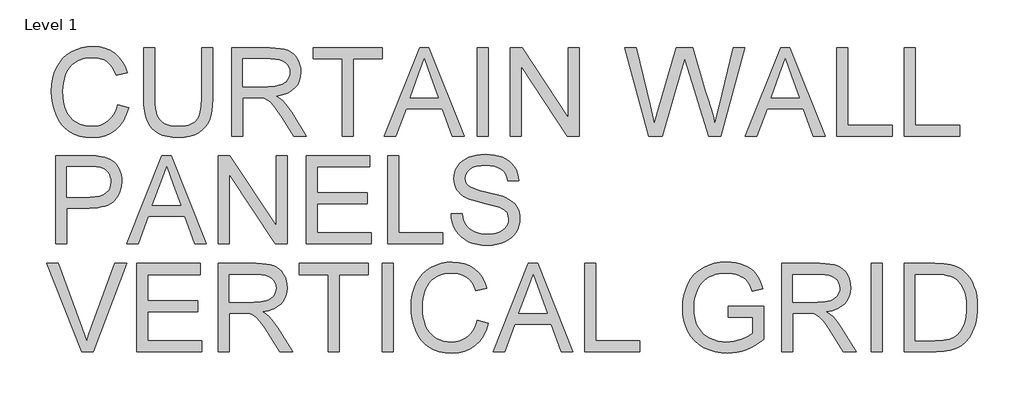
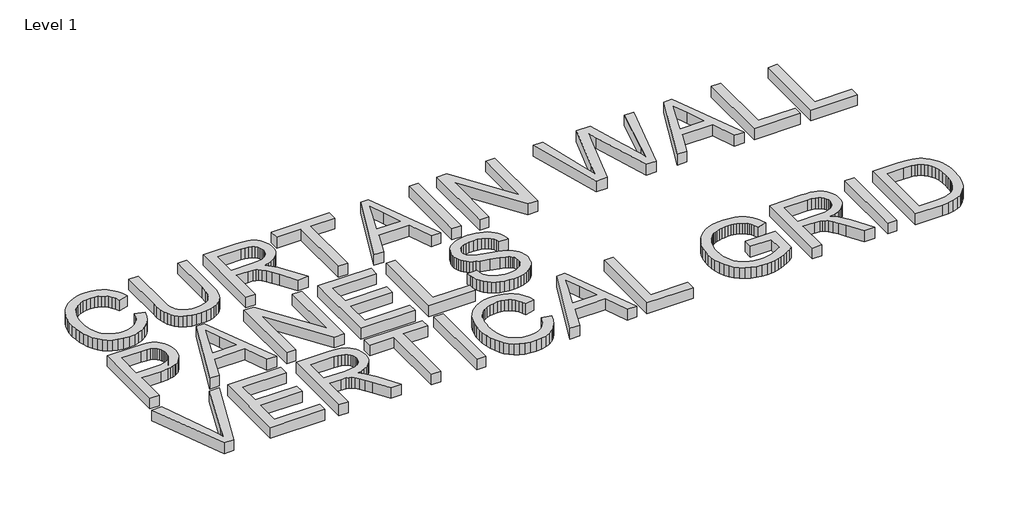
# One storey, part 12 of 27: 1 proxy.
"""IFC4 building model written with IfcOpenShell, lengths in millimetres."""

import ifcopenshell
import ifcopenshell.guid

model = None  # the IFC model being written
_history = None  # IfcOwnerHistory: only IFC2X3 demands one
_inside = {}  # id of a spatial element -> (the spatial element, [elements in it])
_under = {}  # id of a project, library or spatial element -> (it, [spatial elements below it])
_declared = {}  # id of a project -> (the project, [libraries it declares])
_typed = {}  # id of a type object -> (the type object, [elements of that type])
_made_of = {}  # id of a material, layer set ... -> (it, [elements and type objects made of it])


def new_model(schema):
    """Start an empty IFC model of exactly this schema.

    Asked for "IFC4X3", IfcOpenShell would pick the latest addendum, in which some entities
    have other attributes; the version numbers below select the first issue.
    IFC2X3 requires an IfcOwnerHistory on every rooted entity: one is made here for all.
    """
    global model, _history
    if schema == "IFC4X3":
        model = ifcopenshell.file(schema_version=(4, 3, 0, 0))
    else:
        model = ifcopenshell.file(schema=schema)
    _inside.clear()
    _under.clear()
    _declared.clear()
    _typed.clear()
    _made_of.clear()
    _history = None
    if model.schema == "IFC2X3":
        org = make("IfcOrganization", Name="unknown")
        user = make(
            "IfcPersonAndOrganization",
            ThePerson=make("IfcPerson", FamilyName="unknown"),
            TheOrganization=org,
        )
        app = make(
            "IfcApplication",
            ApplicationDeveloper=org,
            Version="unknown",
            ApplicationFullName="unknown",
            ApplicationIdentifier="unknown",
        )
        _history = make(
            "IfcOwnerHistory",
            OwningUser=user,
            OwningApplication=app,
            ChangeAction="ADDED",
            CreationDate=0,
        )
    return model


def make(cls, **values):
    """One entity of the class cls with the attributes given. An attribute that is None is left unset."""
    return model.create_entity(
        cls, **{name: value for name, value in values.items() if value is not None}
    )


def rooted(cls, **values):
    """An entity with a GlobalId (a new one), such as an element, a storey or a relation."""
    return make(cls, GlobalId=ifcopenshell.guid.new(), OwnerHistory=_history, **values)


def si_unit(unit_type, name, prefix=None):
    """IfcSIUnit, for example si_unit("LENGTHUNIT", "METRE", prefix="MILLI")."""
    return make("IfcSIUnit", UnitType=unit_type, Prefix=prefix, Name=name)


def assignment(units):
    """IfcUnitAssignment: the units of a project."""
    return None if units is None else make("IfcUnitAssignment", Units=units)


def point(xyz):
    """IfcCartesianPoint."""
    return None if xyz is None else make("IfcCartesianPoint", Coordinates=xyz)


def direction(xyz):
    """IfcDirection."""
    return None if xyz is None else make("IfcDirection", DirectionRatios=xyz)


def frame(location, z_axis=None, x_axis=None):
    """IfcAxis2Placement3D, a coordinate frame: its origin and axes. An axis left out is left unset."""
    return make(
        "IfcAxis2Placement3D",
        Location=point(location),
        Axis=direction(z_axis),
        RefDirection=direction(x_axis),
    )


def origin():
    """The frame at (0, 0, 0) with its axes left unset."""
    return frame((0.0, 0.0, 0.0))


def origin_with_axes():
    """The frame at (0, 0, 0) with the z axis (0, 0, 1) and the x axis (1, 0, 0) written out."""
    return frame((0.0, 0.0, 0.0), z_axis=(0.0, 0.0, 1.0), x_axis=(1.0, 0.0, 0.0))


def place(relative_to, where):
    """IfcLocalPlacement: puts the frame where relative to a parent placement (None: the world)."""
    return make(
        "IfcLocalPlacement", PlacementRelTo=relative_to, RelativePlacement=where
    )


def context(
    kind, dimensions, precision=None, world=None, true_north=None, identifier=None
):
    """IfcGeometricRepresentationContext, for example the 3D "Model" context."""
    return make(
        "IfcGeometricRepresentationContext",
        ContextIdentifier=identifier,
        ContextType=kind,
        CoordinateSpaceDimension=dimensions,
        Precision=precision,
        WorldCoordinateSystem=world,
        TrueNorth=true_north,
    )


def project(units=None, contexts=None):
    """IfcProject with its units and contexts."""
    return rooted(
        "IfcProject",
        Name="project",
        RepresentationContexts=contexts,
        UnitsInContext=assignment(units),
    )


def spatial(cls, under=None, at=None, **own):
    """A site, building, storey or space (cls), placed at a placement, below another one or the project."""
    s = rooted(cls, ObjectPlacement=at, **own)
    if under is not None:
        _under.setdefault(under.id(), (under, []))[1].append(s)
    return s


def polyline(points):
    """IfcPolyline through the points."""
    return make("IfcPolyline", Points=[point(p) for p in points])


def outline(outer, holes=None, kind="AREA"):
    """IfcArbitraryClosedProfileDef: a profile drawn as a closed curve; with holes, ...WithVoids."""
    if holes is None:
        return make("IfcArbitraryClosedProfileDef", ProfileType=kind, OuterCurve=outer)
    return make(
        "IfcArbitraryProfileDefWithVoids",
        ProfileType=kind,
        OuterCurve=outer,
        InnerCurves=holes,
    )


def extrude(swept, where, along, depth):
    """IfcExtrudedAreaSolid: the profile swept, set in the frame where, extruded along a direction by depth."""
    return make(
        "IfcExtrudedAreaSolid",
        SweptArea=swept,
        Position=where,
        ExtrudedDirection=direction(along),
        Depth=depth,
    )


def shape(context_of_items, identifier, shape_type, items):
    """IfcShapeRepresentation: the items that make up one representation, for example the "Body"."""
    return make(
        "IfcShapeRepresentation",
        ContextOfItems=context_of_items,
        RepresentationIdentifier=identifier,
        RepresentationType=shape_type,
        Items=items,
    )


def made_of(thing, what):
    """Note that an element or type object is made of a material, layer set ...; save() writes the relation."""
    if what is not None:
        _made_of.setdefault(what.id(), (what, []))[1].append(thing)
    return thing


def element(
    cls,
    number,
    at=None,
    inside=None,
    cuts=None,
    type_object=None,
    material=None,
    context=None,
    identifier="Body",
    shape_type=None,
    held_by="IfcProductDefinitionShape",
    body=None,
    shapes=None,
    **own,
):
    """One element of the class cls, such as IfcWall. Its Tag is "e" and its number.

    at: its placement. inside: the storey or other place that contains it. cuts: it is an
    opening in that element (IfcRelVoidsElement). A single representation is given by context,
    identifier, shape_type and body (its items); several are given by shapes. held_by: the class
    of the entity that holds the representations. save() writes the other relations.
    """
    e = rooted(cls, Tag="e%d" % number, ObjectPlacement=at, **own)
    if body is not None:
        shapes = [shape(context, identifier, shape_type, body)]
    if shapes is not None:
        e.Representation = make(held_by, Representations=shapes)
    if inside is not None:
        _inside.setdefault(inside.id(), (inside, []))[1].append(e)
    if cuts is not None:
        rooted(
            "IfcRelVoidsElement", RelatingBuildingElement=cuts, RelatedOpeningElement=e
        )
    if type_object is not None:
        _typed.setdefault(type_object.id(), (type_object, []))[1].append(e)
    return made_of(e, material)


def aggregate(whole, parts):
    """IfcRelAggregates: a whole, such as a stair, and the parts it consists of."""
    return rooted("IfcRelAggregates", RelatingObject=whole, RelatedObjects=parts)


def save(model, path):
    """Write the relations noted so far, then the file.

    IfcRelAggregates (storeys below a building ...), IfcRelContainedInSpatialStructure (elements
    in a storey), IfcRelDefinesByType, IfcRelAssociatesMaterial and IfcRelDeclares: one each for
    every whole, place, type object, material and project.
    """
    for whole, parts in _under.values():
        aggregate(whole, parts)
    for where, things in _inside.values():
        rooted(
            "IfcRelContainedInSpatialStructure",
            RelatedElements=things,
            RelatingStructure=where,
        )
    for kind, things in _typed.values():
        rooted("IfcRelDefinesByType", RelatedObjects=things, RelatingType=kind)
    for what, things in _made_of.values():
        rooted("IfcRelAssociatesMaterial", RelatedObjects=things, RelatingMaterial=what)
    for by, libraries in _declared.values():
        rooted("IfcRelDeclares", RelatingContext=by, RelatedDefinitions=libraries)
    model.write(path)


model = new_model("IFC4")

# Units and contexts
model_context = context("Model", 3, world=origin())
ifc_project = project(units=[si_unit("LENGTHUNIT", "METRE", prefix="MILLI")], contexts=[model_context])

# Site, building, storey
site = spatial("IfcSite", under=ifc_project)
building = spatial("IfcBuilding", under=site)
storey = spatial("IfcBuildingStorey", under=building, Name="Level 1", Elevation=0.0)

# Proxy
placement = place(None, origin())
element("IfcBuildingElementProxy", 1, Name="1000mm Arial", ObjectType="1000mm Arial", at=placement, inside=storey, context=model_context, shape_type="SweptSolid", body=[
    extrude(outline(polyline([(-28231.7417304, -783.1485907), (-28109.317488, -814.7110907), (-28133.5423045, -890.8451609), (-28165.8071897, -957.3700041), (-28206.1121436, -1014.2856202), (-28254.457166, -1061.5920093), (-28309.7513185, -1098.7810629), (-28370.9036623, -1125.3446726), (-28437.9141973, -1141.2828385), (-28510.7829236, -1146.5955604), (-28585.4375016, -1142.5755261), (-28652.7842849, -1130.5154231), (-28712.8232734, -1110.4152515), (-28765.5544672, -1082.2750112), (-28811.7026679, -1046.5131445), (-28851.9926774, -1003.5480936), (-28886.4244956, -953.3798585), (-28914.9981225, -896.0084392), (-28937.4370873, -833.9146004), (-28953.4649194, -769.5791068), (-28963.0816186, -703.0019584), (-28966.287185, -634.1831551), (-28962.6631763, -560.343045), (-28951.7911504, -491.3747981), (-28933.6711072, -427.2784143), (-28908.3030467, -368.0538937), (-28876.2548548, -314.6800923), (-28838.0944175, -268.1358658), (-28793.8217346, -228.4212144), (-28743.4368062, -195.5361381), (-28688.6507622, -169.7496353), (-28631.1747323, -151.3307048), (-28571.0087167, -140.2793465), (-28508.1527153, -136.5955604), (-28438.1308906, -141.362813), (-28373.9224241, -155.6645708), (-28315.5273158, -179.5008339), (-28262.9455657, -212.8716021), (-28217.0439469, -254.895158), (-28178.6892328, -304.6897839), (-28147.8814233, -362.2554799), (-28124.6205183, -427.592246), (-28247.0447607, -456.7636475), (-28266.3229923, -408.620374), (-28289.4867588, -367.4860079), (-28316.5360605, -333.3605492), (-28347.4708971, -306.2439979), (-28382.4706012, -285.5834126), (-28421.7145051, -270.8258516), (-28465.2026088, -261.971315), (-28512.9349123, -259.0198028), (-28567.8554556, -262.2926189), (-28618.0834681, -272.111067), (-28663.6189499, -288.4751473), (-28704.4619009, -311.3848597), (-28740.0967405, -339.8090429), (-28770.0078881, -372.7165358), (-28794.1953437, -410.1073384), (-28812.6591073, -451.9814506), (-28826.3107852, -496.440938), (-28836.0619838, -541.5878663), (-28841.9127029, -587.4222354), (-28843.8629426, -633.9440453), (-28841.5540381, -692.4064032), (-28834.6273247, -747.0430036), (-28823.0828023, -797.8538464), (-28806.920471, -844.8389316), (-28785.8788043, -887.0642364), (-28759.6962759, -923.595738), (-28728.3728857, -954.4334362), (-28691.9086338, -979.5773312), (-28652.0744275, -999.0872004), (-28610.6411741, -1013.0228213), (-28567.6088735, -1021.3841938), (-28522.9775259, -1024.171318), (-28469.7531681, -1020.3754491), (-28420.7879544, -1008.9878426), (-28376.0818849, -990.0084984), (-28335.6349596, -963.4374165), (-28300.4036179, -929.3941518), (-28271.3442991, -887.9982593), (-28248.4570033, -839.2497389), (-28231.7417304, -783.1485907)])), origin_with_axes(), (0.0, 0.0, 1.0), 150.0),
    extrude(outline(polyline([(-27298.256882, -151.8985907), (-27175.8326395, -151.8985907), (-27175.8326395, -716.9151627), (-27177.9099063, -786.8772099), (-27184.1417068, -849.2325751), (-27194.5280408, -903.9812582), (-27209.0689085, -951.1232593), (-27229.0196365, -992.44443), (-27255.6355515, -1029.730622), (-27288.9166535, -1062.9818353), (-27328.8629426, -1092.1980699), (-27375.5192517, -1115.996972), (-27428.9304141, -1132.9961878), (-27489.0964298, -1143.1957173), (-27556.0172986, -1146.5955604), (-27621.2868151, -1143.636576), (-27680.3245311, -1134.7596229), (-27733.1304467, -1119.964701), (-27779.7045619, -1099.2518104), (-27820.0543488, -1072.9273105), (-27854.1872797, -1041.2975609), (-27882.1033545, -1004.3625615), (-27903.8025732, -962.1223123), (-27920.0695151, -913.1272099), (-27931.6887593, -855.9276509), (-27938.6603058, -790.5236351), (-27940.9841547, -716.9151627), (-27940.9841547, -151.8985907), (-27818.5599123, -151.8985907), (-27818.5599123, -712.6111854), (-27817.0505313, -771.7983451), (-27812.5223886, -822.6316045), (-27804.975484, -865.1109635), (-27794.4098176, -899.2364222), (-27780.1678372, -927.4738008), (-27761.5919909, -952.2889198), (-27738.6822785, -973.681779), (-27711.4387001, -991.6523786), (-27680.3843086, -1005.8794146), (-27646.0421566, -1016.0415831), (-27608.4122442, -1022.1388843), (-27567.4945713, -1024.171318), (-27500.020761, -1020.1512837), (-27442.9781177, -1008.0911807), (-27396.3666417, -987.991009), (-27376.9725913, -974.9258975), (-27360.1863327, -959.8507687), (-27345.6716177, -941.9175301), (-27333.092198, -920.2780888), (-27313.7392446, -865.8805983), (-27302.1274726, -796.6582972), (-27298.256882, -712.6111854), (-27298.256882, -151.8985907)])), origin_with_axes(), (0.0, 0.0, 1.0), 150.0),
    extrude(outline(polyline([(-26961.5902153, -1131.2925301), (-26961.5902153, -151.8985907), (-26539.5613327, -151.8985907), (-26478.984347, -153.5499431), (-26426.1335983, -158.5040003), (-26381.0090866, -166.7607622), (-26343.6108119, -178.320229), (-26311.7643689, -194.0715902), (-26283.2953526, -214.9040358), (-26258.2037629, -240.8175656), (-26236.4895998, -271.8121797), (-26218.9673312, -306.2215814), (-26206.451425, -342.3794738), (-26198.9418814, -380.2858569), (-26196.4387001, -419.9407309), (-26200.5857616, -470.2434652), (-26213.0269459, -516.4215547), (-26233.762253, -558.4749993), (-26262.7916831, -596.4037991), (-26300.4888451, -628.9974603), (-26347.2273483, -655.0454894), (-26403.0071927, -674.5478864), (-26467.8283782, -687.5046513), (-26427.4785912, -713.8665121), (-26398.2474123, -739.8697081), (-26348.0941215, -799.348283), (-26299.0168251, -865.8805983), (-26135.7047986, -1131.2925301), (-26277.9751585, -1131.2925301), (-26405.4207077, -928.2882687), (-26456.4108829, -850.8166778), (-26497.4779994, -793.9085339), (-26531.7005964, -754.7244075), (-26562.1572134, -730.4248691), (-26590.9998389, -716.1679444), (-26620.3804615, -707.1116589), (-26691.3960865, -702.8076816), (-26839.1659729, -702.8076816), (-26839.1659729, -1131.2925301), (-26961.5902153, -1131.2925301)]), holes=[polyline([(-26839.1659729, -580.3834392), (-26565.1460865, -580.3834392), (-26486.4490576, -576.0495732), (-26425.3863801, -563.0479752), (-26400.8327875, -553.0800834), (-26379.4175117, -540.511872), (-26361.1405526, -525.343341), (-26346.0019104, -507.5744903), (-26334.1286119, -488.0795655), (-26325.6476845, -467.7328118), (-26320.559128, -446.5342293), (-26318.8629426, -424.483818), (-26322.0983977, -393.1753722), (-26331.8047631, -364.7661333), (-26347.9820388, -339.2561014), (-26370.6302248, -316.6452763), (-26400.2723738, -298.1292074), (-26437.4315387, -284.9034439), (-26482.1077194, -276.9679858), (-26534.300916, -274.3228331), (-26839.1659729, -274.3228331), (-26839.1659729, -580.3834392)])]), origin_with_axes(), (0.0, 0.0, 1.0), 150.0),
    extrude(outline(polyline([(-25737.347791, -1131.2925301), (-25737.347791, -274.3228331), (-26058.7114274, -274.3228331), (-26058.7114274, -151.8985907), (-25293.5599123, -151.8985907), (-25293.5599123, -274.3228331), (-25614.9235486, -274.3228331), (-25614.9235486, -1131.2925301), (-25737.347791, -1131.2925301)])), origin_with_axes(), (0.0, 0.0, 1.0), 150.0),
    extrude(outline(polyline([(-25269.8880373, -1131.2925301), (-24878.943435, -151.8985907), (-24774.691541, -151.8985907), (-24383.7469388, -1131.2925301), (-24513.1053668, -1131.2925301), (-24625.2478857, -825.2319241), (-25028.6262001, -825.2319241), (-25140.5296092, -1131.2925301), (-25269.8880373, -1131.2925301)]), holes=[polyline([(-24983.6735486, -702.8076816), (-24669.9614274, -702.8076816), (-24758.1929615, -462.0240642), (-24826.817488, -274.3228331), (-24887.7904994, -440.9823975), (-24983.6735486, -702.8076816)])]), origin_with_axes(), (0.0, 0.0, 1.0), 150.0),
    extrude(outline(polyline([(-24237.6508213, -1131.2925301), (-24237.6508213, -151.8985907), (-24115.2265789, -151.8985907), (-24115.2265789, -1131.2925301), (-24237.6508213, -1131.2925301)])), origin_with_axes(), (0.0, 0.0, 1.0), 150.0),
    extrude(outline(polyline([(-23870.3780941, -1131.2925301), (-23870.3780941, -151.8985907), (-23739.3458971, -151.8985907), (-23227.6508213, -927.8100491), (-23227.6508213, -151.8985907), (-23105.2265789, -151.8985907), (-23105.2265789, -1131.2925301), (-23236.2587759, -1131.2925301), (-23747.9538516, -355.1419619), (-23747.9538516, -1131.2925301), (-23870.3780941, -1131.2925301)])), origin_with_axes(), (0.0, 0.0, 1.0), 150.0),
    extrude(outline(polyline([(-22333.1408782, -1131.2925301), (-22600.2265789, -151.8985907), (-22473.9765789, -151.8985907), (-22319.0333971, -795.5823028), (-22271.2114274, -994.2825869), (-22220.0419198, -818.5368483), (-22025.8847229, -151.8985907), (-21843.9221282, -151.8985907), (-21702.8473176, -635.1395945), (-21670.6422098, -724.7460102), (-21642.4123034, -814.4719809), (-21618.1575981, -904.3175064), (-21597.8780941, -994.2825869), (-21551.4907835, -801.3209392), (-21395.1129426, -151.8985907), (-21268.8629426, -151.8985907), (-21536.1877532, -1131.2925301), (-21666.9808403, -1131.2925301), (-21901.7867115, -375.7054089), (-21934.5447607, -270.2579657), (-21971.3676774, -397.2252953), (-22185.3709918, -1131.2925301), (-22333.1408782, -1131.2925301)])), origin_with_axes(), (0.0, 0.0, 1.0), 150.0),
    extrude(outline(polyline([(-21260.4940979, -1131.2925301), (-20869.5494956, -151.8985907), (-20765.2976016, -151.8985907), (-20374.3529994, -1131.2925301), (-20503.7114274, -1131.2925301), (-20615.8539463, -825.2319241), (-21019.2322607, -825.2319241), (-21131.1356698, -1131.2925301), (-21260.4940979, -1131.2925301)]), holes=[polyline([(-20974.2796092, -702.8076816), (-20660.567488, -702.8076816), (-20748.7990221, -462.0240642), (-20817.4235486, -274.3228331), (-20878.39656, -440.9823975), (-20974.2796092, -702.8076816)])]), origin_with_axes(), (0.0, 0.0, 1.0), 150.0),
    extrude(outline(polyline([(-20243.5599123, -1131.2925301), (-20243.5599123, -151.8985907), (-20121.1356698, -151.8985907), (-20121.1356698, -1008.8682877), (-19631.4387001, -1008.8682877), (-19631.4387001, -1131.2925301), (-20243.5599123, -1131.2925301)])), origin_with_axes(), (0.0, 0.0, 1.0), 150.0),
    extrude(outline(polyline([(-19493.7114274, -1131.2925301), (-19493.7114274, -151.8985907), (-19371.287185, -151.8985907), (-19371.287185, -1008.8682877), (-18881.5902153, -1008.8682877), (-18881.5902153, -1131.2925301), (-19493.7114274, -1131.2925301)])), origin_with_axes(), (0.0, 0.0, 1.0), 150.0),
    extrude(outline(polyline([(-28920.3780941, -2328.2622271), (-28920.3780941, -1348.8682877), (-28557.4093441, -1348.8682877), (-28472.8840126, -1351.1996087), (-28411.0741168, -1358.1935718), (-28377.0084356, -1365.5387274), (-28345.8270169, -1375.618702), (-28317.5298608, -1388.4334954), (-28292.1169672, -1403.9831078), (-28269.3193376, -1422.5888429), (-28248.8679733, -1444.5720045), (-28230.7628745, -1469.9325929), (-28215.004041, -1498.6706078), (-28202.2415529, -1529.8370821), (-28193.1254899, -1562.4830486), (-28187.6558521, -1596.6085073), (-28185.8326395, -1632.2134581), (-28190.756808, -1692.3346407), (-28205.5293133, -1747.6437375), (-28230.1501555, -1798.1407486), (-28264.6193346, -1843.8256741), (-28286.2980049, -1864.1126503), (-28311.9406681, -1881.6946963), (-28341.5473242, -1896.5718122), (-28375.1179733, -1908.7439979), (-28412.6526154, -1918.2112535), (-28454.1512504, -1924.9735789), (-28549.0404994, -1930.3834392), (-28797.9538516, -1930.3834392), (-28797.9538516, -2328.2622271), (-28920.3780941, -2328.2622271)]), holes=[polyline([(-28797.9538516, -1807.9591968), (-28541.8672039, -1807.9591968), (-28482.9864037, -1805.1496561), (-28433.3113327, -1796.7210339), (-28392.8419909, -1782.6733303), (-28361.5783782, -1763.0065453), (-28338.2502236, -1738.2437316), (-28321.587256, -1708.907942), (-28311.5894755, -1674.9991767), (-28308.256882, -1636.5174354), (-28310.222066, -1607.9438085), (-28316.1176182, -1581.5221703), (-28325.9435386, -1557.2525206), (-28339.699827, -1535.1348597), (-28356.6542097, -1515.8865169), (-28376.0744127, -1500.2248218), (-28397.960436, -1488.1497744), (-28422.3122797, -1479.6613748), (-28469.5364748, -1473.3847413), (-28544.7365221, -1471.2925301), (-28797.9538516, -1471.2925301), (-28797.9538516, -1807.9591968)])]), origin_with_axes(), (0.0, 0.0, 1.0), 150.0),
    extrude(outline(polyline([(-28131.5547039, -2328.2622271), (-27740.6101016, -1348.8682877), (-27636.3582077, -1348.8682877), (-27245.4136054, -2328.2622271), (-27374.7720335, -2328.2622271), (-27486.9145524, -2022.201621), (-27890.2928668, -2022.201621), (-28002.1962759, -2328.2622271), (-28131.5547039, -2328.2622271)]), holes=[polyline([(-27845.3402153, -1899.7773786), (-27531.6280941, -1899.7773786), (-27619.8596282, -1658.9937612), (-27688.4841547, -1471.2925301), (-27749.457166, -1637.9520945), (-27845.3402153, -1899.7773786)])]), origin_with_axes(), (0.0, 0.0, 1.0), 150.0),
    extrude(outline(polyline([(-27114.6205183, -2328.2622271), (-27114.6205183, -1348.8682877), (-26983.5883213, -1348.8682877), (-26471.8932456, -2124.779746), (-26471.8932456, -1348.8682877), (-26349.4690032, -1348.8682877), (-26349.4690032, -2328.2622271), (-26480.5012001, -2328.2622271), (-26992.1962759, -1552.1116589), (-26992.1962759, -2328.2622271), (-27114.6205183, -2328.2622271)])), origin_with_axes(), (0.0, 0.0, 1.0), 150.0),
    extrude(outline(polyline([(-26135.2265789, -2328.2622271), (-26135.2265789, -1348.8682877), (-25431.287185, -1348.8682877), (-25431.287185, -1471.2925301), (-26012.8023365, -1471.2925301), (-26012.8023365, -1762.0501059), (-25461.8932456, -1762.0501059), (-25461.8932456, -1884.4743483), (-26012.8023365, -1884.4743483), (-26012.8023365, -2205.8379847), (-25415.9841547, -2205.8379847), (-25415.9841547, -2328.2622271), (-26135.2265789, -2328.2622271)])), origin_with_axes(), (0.0, 0.0, 1.0), 150.0),
    extrude(outline(polyline([(-25232.347791, -2328.2622271), (-25232.347791, -1348.8682877), (-25109.9235486, -1348.8682877), (-25109.9235486, -2205.8379847), (-24620.2265789, -2205.8379847), (-24620.2265789, -2328.2622271), (-25232.347791, -2328.2622271)])), origin_with_axes(), (0.0, 0.0, 1.0), 150.0),
    extrude(outline(polyline([(-24528.4083971, -1991.5955604), (-24405.9841547, -1991.5955604), (-24400.3800176, -2027.2304), (-24391.9364511, -2059.5326461), (-24380.6534551, -2088.5022987), (-24366.5310297, -2114.1393578), (-24348.8518453, -2136.9594039), (-24326.8985723, -2157.4780178), (-24300.6712108, -2175.6951994), (-24270.1697607, -2191.6109487), (-24236.5150496, -2204.5303527), (-24200.8279047, -2213.7584984), (-24163.1083261, -2219.2953858), (-24123.3563138, -2221.141015), (-24055.1502295, -2215.5518223), (-24024.2303372, -2208.5653314), (-23995.4325448, -2198.7842441), (-23969.4667097, -2186.5597531), (-23947.0426892, -2172.2430509), (-23928.1604834, -2155.8341376), (-23912.8200922, -2137.3330131), (-23900.9467938, -2117.5392009), (-23892.4658663, -2097.2522247), (-23887.3773099, -2076.4720844), (-23885.6811244, -2055.1987801), (-23890.7622087, -2014.2213298), (-23906.0054615, -1978.8031835), (-23918.8277271, -1963.0891832), (-23936.9701869, -1948.5856764), (-23960.4328408, -1935.2926633), (-23989.2156888, -1923.2101437), (-24053.8650141, -1903.9916897), (-24167.4720808, -1876.4641684), (-24284.4864629, -1845.5293317), (-24327.1899874, -1830.6223271), (-24359.3577342, -1816.0889316), (-24392.0485338, -1796.5865346), (-24420.3008569, -1774.9022602), (-24444.1147033, -1751.0361085), (-24463.4900732, -1724.9880794), (-24478.5016884, -1697.0271714), (-24489.2242707, -1667.4223833), (-24495.65782, -1636.173715), (-24497.8023365, -1603.2811665), (-24495.1497116, -1566.8243868), (-24487.191837, -1531.5781007), (-24473.9287126, -1497.5423082), (-24455.3603384, -1464.7170093), (-24431.6959356, -1434.4397247), (-24403.1447252, -1408.0479752), (-24369.7067074, -1385.5417607), (-24331.381882, -1366.9210812), (-24289.4629366, -1352.3279083), (-24245.242559, -1341.9042134), (-24198.7207491, -1335.6499964), (-24149.897507, -1333.5652574), (-24096.6357882, -1335.7471348), (-24046.6020524, -1342.2927669), (-23999.7962996, -1353.2021537), (-23956.2185297, -1368.4752953), (-23916.6757385, -1387.9776923), (-23881.9749217, -1411.5748455), (-23852.1160794, -1439.2667548), (-23827.0992115, -1471.0534203), (-23807.1185948, -1506.0082912), (-23792.368506, -1543.204817), (-23782.8489452, -1582.6429977), (-23778.5599123, -1624.3228331), (-23900.9841547, -1624.3228331), (-23909.173667, -1585.2582616), (-23923.4604804, -1551.2747744), (-23943.844595, -1522.3723715), (-23970.3260107, -1498.5510528), (-24003.3978917, -1479.9303734), (-24043.5534018, -1466.6298881), (-24090.7925413, -1458.6495969), (-24145.11531, -1455.9894998), (-24201.1716251, -1458.6197081), (-24249.0683166, -1466.5103331), (-24288.8053846, -1479.6613748), (-24320.3828289, -1498.0728331), (-24344.4432574, -1520.2054385), (-24361.6292778, -1544.5199212), (-24371.94089, -1571.0162813), (-24375.3780941, -1599.6945187), (-24372.9421625, -1624.3676662), (-24365.6343677, -1646.7393814), (-24353.4547098, -1666.8096643), (-24336.4031888, -1684.578515), (-24309.5631083, -1701.4058705), (-24267.3004426, -1718.4125585), (-24209.6151916, -1735.5985789), (-24136.5073554, -1752.9639316), (-24001.529846, -1785.7817583), (-23954.0366523, -1800.6215133), (-23919.8738327, -1814.4151627), (-23882.3410587, -1835.3223301), (-23850.0836457, -1858.829817), (-23823.1015937, -1884.9376236), (-23801.3949028, -1913.6457498), (-23784.7095187, -1944.8047519), (-23772.7913872, -1978.2651864), (-23765.6405083, -2014.0270531), (-23763.256882, -2052.0903521), (-23765.999173, -2090.3852888), (-23774.2260463, -2127.559398), (-23787.9375016, -2163.6126799), (-23807.1335391, -2198.5451343), (-23831.4779106, -2231.0042962), (-23860.6343677, -2259.6377006), (-23894.6029106, -2284.4453473), (-23933.3835391, -2305.4272366), (-23975.8479538, -2322.1126207), (-24020.867855, -2334.0307522), (-24068.4432426, -2341.1816311), (-24118.5741168, -2343.5652574), (-24181.1984806, -2340.9948265), (-24238.5175945, -2333.2835339), (-24290.5314588, -2320.4313795), (-24337.2400732, -2302.4383634), (-24378.9273809, -2279.2745969), (-24415.8773247, -2250.9101911), (-24448.0899046, -2217.3451461), (-24475.5651206, -2178.5794619), (-24497.6977259, -2135.8684652), (-24513.8824738, -2090.4674828), (-24524.1193642, -2042.3765145), (-24528.4083971, -1991.5955604)])), origin_with_axes(), (0.0, 0.0, 1.0), 150.0),
    extrude(outline(polyline([(-28631.0551774, -3525.2319241), (-29020.8042304, -2545.8379847), (-28889.7720335, -2545.8379847), (-28628.9031888, -3251.4511475), (-28599.9111196, -3333.645158), (-28576.0599123, -3410.4591968), (-28551.7902626, -3330.8953947), (-28523.9339653, -3251.4511475), (-28262.347791, -2545.8379847), (-28131.3155941, -2545.8379847), (-28504.5660676, -3525.2319241), (-28631.0551774, -3525.2319241)])), origin_with_axes(), (0.0, 0.0, 1.0), 150.0),
    extrude(outline(polyline([(-28017.4993062, -3525.2319241), (-28017.4993062, -2545.8379847), (-27313.5599123, -2545.8379847), (-27313.5599123, -2668.2622271), (-27895.0750638, -2668.2622271), (-27895.0750638, -2959.0198028), (-27344.1659729, -2959.0198028), (-27344.1659729, -3081.4440453), (-27895.0750638, -3081.4440453), (-27895.0750638, -3402.8076816), (-27298.256882, -3402.8076816), (-27298.256882, -3525.2319241), (-28017.4993062, -3525.2319241)])), origin_with_axes(), (0.0, 0.0, 1.0), 150.0),
    extrude(outline(polyline([(-27114.6205183, -3525.2319241), (-27114.6205183, -2545.8379847), (-26692.5916357, -2545.8379847), (-26632.0146501, -2547.4893371), (-26579.1639014, -2552.4433942), (-26534.0393896, -2560.7001562), (-26496.6411149, -2572.2596229), (-26464.794672, -2588.0109842), (-26436.3256556, -2608.8434297), (-26411.2340659, -2634.7569596), (-26389.5199028, -2665.7515737), (-26371.9976342, -2700.1609753), (-26359.4817281, -2736.3188677), (-26351.9721844, -2774.2252509), (-26349.4690032, -2813.8801248), (-26353.6160646, -2864.1828592), (-26366.0572489, -2910.3609487), (-26386.7925561, -2952.4143933), (-26415.8219861, -2990.343193), (-26453.5191482, -3022.9368542), (-26500.2576514, -3048.9848833), (-26556.0374957, -3068.4872804), (-26620.8586812, -3081.4440453), (-26580.5088943, -3107.8059061), (-26551.2777153, -3133.8091021), (-26501.1244246, -3193.2876769), (-26452.0471282, -3259.8199922), (-26288.7351016, -3525.2319241), (-26431.0054615, -3525.2319241), (-26558.4510107, -3322.2276627), (-26609.4411859, -3244.7560718), (-26650.5083024, -3187.8479278), (-26684.7308995, -3148.6638014), (-26715.1875164, -3124.3642631), (-26744.0301419, -3110.1073384), (-26773.4107645, -3101.0510528), (-26844.4263895, -3096.7470756), (-26992.1962759, -3096.7470756), (-26992.1962759, -3525.2319241), (-27114.6205183, -3525.2319241)]), holes=[polyline([(-26992.1962759, -2974.3228331), (-26718.1763895, -2974.3228331), (-26639.4793606, -2969.9889671), (-26578.4166831, -2956.9873691), (-26553.8630905, -2947.0194773), (-26532.4478147, -2934.4512659), (-26514.1708557, -2919.2827349), (-26499.0322134, -2901.5138843), (-26487.158915, -2882.0189594), (-26478.6779875, -2861.6722058), (-26473.5894311, -2840.4736233), (-26471.8932456, -2818.4232119), (-26475.1287007, -2787.1147661), (-26484.8350661, -2758.7055273), (-26501.0123418, -2733.1954953), (-26523.6605278, -2710.5846703), (-26553.3026768, -2692.0686014), (-26590.4618417, -2678.8428379), (-26635.1380225, -2670.9073798), (-26687.3312191, -2668.2622271), (-26992.1962759, -2668.2622271), (-26992.1962759, -2974.3228331)])]), origin_with_axes(), (0.0, 0.0, 1.0), 150.0),
    extrude(outline(polyline([(-25890.3780941, -3525.2319241), (-25890.3780941, -2668.2622271), (-26211.7417304, -2668.2622271), (-26211.7417304, -2545.8379847), (-25446.5902153, -2545.8379847), (-25446.5902153, -2668.2622271), (-25767.9538516, -2668.2622271), (-25767.9538516, -3525.2319241), (-25890.3780941, -3525.2319241)])), origin_with_axes(), (0.0, 0.0, 1.0), 150.0),
    extrude(outline(polyline([(-25293.5599123, -3525.2319241), (-25293.5599123, -2545.8379847), (-25171.1356698, -2545.8379847), (-25171.1356698, -3525.2319241), (-25293.5599123, -3525.2319241)])), origin_with_axes(), (0.0, 0.0, 1.0), 150.0),
    extrude(outline(polyline([(-24237.6508213, -3177.0879847), (-24115.2265789, -3208.6504847), (-24139.4513954, -3284.7845549), (-24171.7162806, -3351.309398), (-24212.0212345, -3408.2250141), (-24260.366257, -3455.5314032), (-24315.6604094, -3492.7204568), (-24376.8127532, -3519.2840666), (-24443.8232882, -3535.2222324), (-24516.6920145, -3540.5349544), (-24591.3465925, -3536.51492), (-24658.6933758, -3524.454817), (-24718.7323643, -3504.3546454), (-24771.4635581, -3476.2144051), (-24817.6117588, -3440.4525384), (-24857.9017683, -3397.4874875), (-24892.3335865, -3347.3192524), (-24920.9072134, -3289.9478331), (-24943.3461782, -3227.8539944), (-24959.3740103, -3163.5185008), (-24968.9907095, -3096.9413523), (-24972.1962759, -3028.1225491), (-24968.5722673, -2954.282439), (-24957.7002413, -2885.314192), (-24939.5801981, -2821.2178083), (-24914.2121376, -2761.9932877), (-24882.1639458, -2708.6194862), (-24844.0035084, -2662.0752598), (-24799.7308255, -2622.3606084), (-24749.3458971, -2589.475532), (-24694.5598531, -2563.6890293), (-24637.0838232, -2545.2700988), (-24576.9178076, -2534.2187405), (-24514.0618062, -2530.5349544), (-24444.0399815, -2535.302207), (-24379.831515, -2549.6039648), (-24321.4364067, -2573.4402278), (-24268.8546566, -2606.810996), (-24222.9530378, -2648.8345519), (-24184.5983237, -2698.6291778), (-24153.7905142, -2756.1948739), (-24130.5296092, -2821.53164), (-24252.9538516, -2850.7030415), (-24272.2320832, -2802.5597679), (-24295.3958498, -2761.4254018), (-24322.4451514, -2727.2999431), (-24353.379988, -2700.1833919), (-24388.3796921, -2679.5228065), (-24427.623596, -2664.7652455), (-24471.1116997, -2655.910709), (-24518.8440032, -2652.9591968), (-24573.7645465, -2656.2320128), (-24623.992559, -2666.050461), (-24669.5280408, -2682.4145412), (-24710.3709918, -2705.3242536), (-24746.0058314, -2733.7484368), (-24775.916979, -2766.6559297), (-24800.1044346, -2804.0467323), (-24818.5681982, -2845.9208445), (-24832.2198762, -2890.380332), (-24841.9710747, -2935.5272602), (-24847.8217938, -2981.3616293), (-24849.7720335, -3027.8834392), (-24847.463129, -3086.3457972), (-24840.5364156, -3140.9823975), (-24828.9918932, -3191.7932403), (-24812.8295619, -3238.7783256), (-24791.7878952, -3281.0036304), (-24765.6053668, -3317.5351319), (-24734.2819766, -3348.3728302), (-24697.8177248, -3373.5167252), (-24657.9835184, -3393.0265944), (-24616.550265, -3406.9622152), (-24573.5179645, -3415.3235878), (-24528.8866168, -3418.1107119), (-24475.662259, -3414.3148431), (-24426.6970453, -3402.9272366), (-24381.9909758, -3383.9478923), (-24341.5440505, -3357.3768104), (-24306.3127088, -3323.3335457), (-24277.25339, -3281.9376532), (-24254.3660942, -3233.1891329), (-24237.6508213, -3177.0879847)])), origin_with_axes(), (0.0, 0.0, 1.0), 150.0),
    extrude(outline(polyline([(-24060.9486433, -3525.2319241), (-23670.004041, -2545.8379847), (-23565.7521471, -2545.8379847), (-23174.8075448, -3525.2319241), (-23304.1659729, -3525.2319241), (-23416.3084918, -3219.171318), (-23819.6868062, -3219.171318), (-23931.5902153, -3525.2319241), (-24060.9486433, -3525.2319241)]), holes=[polyline([(-23774.7341547, -3096.7470756), (-23461.0220335, -3096.7470756), (-23549.2535676, -2855.9634581), (-23617.8780941, -2668.2622271), (-23678.8511054, -2834.9217915), (-23774.7341547, -3096.7470756)])]), origin_with_axes(), (0.0, 0.0, 1.0), 150.0),
    extrude(outline(polyline([(-23044.0144577, -3525.2319241), (-23044.0144577, -2545.8379847), (-22921.5902153, -2545.8379847), (-22921.5902153, -3402.8076816), (-22431.8932456, -3402.8076816), (-22431.8932456, -3525.2319241), (-23044.0144577, -3525.2319241)])), origin_with_axes(), (0.0, 0.0, 1.0), 150.0),
    extrude(outline(polyline([(-21452.4993062, -3142.6561665), (-21452.4993062, -3020.2319241), (-21054.6205183, -3020.2319241), (-21054.6205183, -3386.3091021), (-21102.5844595, -3422.3100786), (-21151.3105633, -3453.558747), (-21200.7988298, -3480.0551071), (-21251.0492588, -3501.7991589), (-21302.0020731, -3518.7460694), (-21353.5974951, -3530.8510055), (-21405.8355248, -3538.1139671), (-21458.7161623, -3540.5349544), (-21529.0368743, -3536.6867802), (-21596.0548815, -3525.1422579), (-21659.7701839, -3505.9013872), (-21720.1827816, -3478.9641684), (-21775.3424347, -3444.7340991), (-21823.2989037, -3403.6146774), (-21864.0521885, -3355.6059031), (-21897.6022891, -3300.7077763), (-21923.8072341, -3240.67626), (-21942.5250519, -3177.267317), (-21953.7557426, -3110.4809475), (-21957.4993062, -3040.3171513), (-21953.770687, -2970.145883), (-21942.5848294, -2902.3806575), (-21923.9417334, -2837.0214748), (-21897.841399, -2774.068335), (-21864.7471015, -2716.2859457), (-21825.1221163, -2666.4390145), (-21778.9664434, -2624.5275414), (-21726.2800827, -2590.5515263), (-21668.2062783, -2564.2942761), (-21605.888274, -2545.5390973), (-21539.3260699, -2534.2859901), (-21468.519666, -2530.5349544), (-21416.8271057, -2532.7093595), (-21367.6750874, -2539.2325751), (-21321.0636114, -2550.104601), (-21276.9926774, -2565.3254373), (-21236.500919, -2584.4243365), (-21200.6269695, -2606.9305509), (-21169.370829, -2632.8440808), (-21142.7324975, -2662.1649259), (-21119.860146, -2695.5581107), (-21099.9019459, -2733.6886594), (-21082.857897, -2776.5565719), (-21068.7279994, -2824.1618483), (-21181.5878479, -2855.9634581), (-21206.7840481, -2791.4336878), (-21221.4220542, -2765.1091879), (-21237.4199975, -2742.7449449), (-21255.8912333, -2723.3770472), (-21277.9491168, -2706.0415831), (-21303.5936481, -2690.7385528), (-21332.824827, -2677.4679562), (-21364.6936865, -2666.745374), (-21398.2512593, -2659.0863866), (-21433.4975454, -2654.4909942), (-21470.4325448, -2652.9591968), (-21514.2120637, -2654.6105492), (-21554.9279875, -2659.5646063), (-21592.5803165, -2667.8213683), (-21627.1690505, -2679.380835), (-21658.62694, -2693.6228154), (-21686.8867352, -2709.9271182), (-21711.9484362, -2728.2937434), (-21733.8120429, -2748.7226911), (-21769.8279639, -2793.7650088), (-21796.817488, -2843.0515263), (-21813.5551774, -2888.3329539), (-21825.5106698, -2935.4674828), (-21832.6839653, -2984.455113), (-21835.0750638, -3035.2958445), (-21832.1982734, -3096.4257717), (-21823.5679023, -3152.3700041), (-21809.1839505, -3203.1285416), (-21789.0464179, -3248.7013843), (-21763.4168311, -3288.9166719), (-21732.5567162, -3323.6025443), (-21696.4660735, -3352.7590015), (-21655.1449028, -3376.3860434), (-21610.5284995, -3394.6405859), (-21564.5521589, -3407.6795448), (-21517.2158811, -3415.5029201), (-21468.519666, -3418.1107119), (-21425.8609746, -3416.1455279), (-21383.725336, -3410.2499757), (-21342.1127502, -3400.4240553), (-21301.0232172, -3386.6677669), (-21229.2005964, -3354.1787162), (-21177.0447607, -3319.5974544), (-21177.0447607, -3142.6561665), (-21452.4993062, -3142.6561665)])), origin_with_axes(), (0.0, 0.0, 1.0), 150.0),
    extrude(outline(polyline([(-20855.6811244, -3525.2319241), (-20855.6811244, -2545.8379847), (-20433.6522418, -2545.8379847), (-20373.0752561, -2547.4893371), (-20320.2245074, -2552.4433942), (-20275.0999957, -2560.7001562), (-20237.701721, -2572.2596229), (-20205.855278, -2588.0109842), (-20177.3862617, -2608.8434297), (-20152.294672, -2634.7569596), (-20130.5805088, -2665.7515737), (-20113.0582403, -2700.1609753), (-20100.5423341, -2736.3188677), (-20093.0327905, -2774.2252509), (-20090.5296092, -2813.8801248), (-20094.6766707, -2864.1828592), (-20107.117855, -2910.3609487), (-20127.8531621, -2952.4143933), (-20156.8825922, -2990.343193), (-20194.5797542, -3022.9368542), (-20241.3182574, -3048.9848833), (-20297.0981018, -3068.4872804), (-20361.9192873, -3081.4440453), (-20321.5695003, -3107.8059061), (-20292.3383213, -3133.8091021), (-20242.1850306, -3193.2876769), (-20193.1077342, -3259.8199922), (-20029.7957077, -3525.2319241), (-20172.0660676, -3525.2319241), (-20299.5116168, -3322.2276627), (-20350.501792, -3244.7560718), (-20391.5689085, -3187.8479278), (-20425.7915055, -3148.6638014), (-20456.2481225, -3124.3642631), (-20485.090748, -3110.1073384), (-20514.4713706, -3101.0510528), (-20585.4869956, -3096.7470756), (-20733.256882, -3096.7470756), (-20733.256882, -3525.2319241), (-20855.6811244, -3525.2319241)]), holes=[polyline([(-20733.256882, -2974.3228331), (-20459.2369956, -2974.3228331), (-20380.5399667, -2969.9889671), (-20319.4772891, -2956.9873691), (-20294.9236966, -2947.0194773), (-20273.5084208, -2934.4512659), (-20255.2314617, -2919.2827349), (-20240.0928195, -2901.5138843), (-20228.219521, -2882.0189594), (-20219.7385936, -2861.6722058), (-20214.6500371, -2840.4736233), (-20212.9538516, -2818.4232119), (-20216.1893068, -2787.1147661), (-20225.8956722, -2758.7055273), (-20242.0729479, -2733.1954953), (-20264.7211338, -2710.5846703), (-20294.3632829, -2692.0686014), (-20331.5224478, -2678.8428379), (-20376.1986285, -2670.9073798), (-20428.3918251, -2668.2622271), (-20733.256882, -2668.2622271), (-20733.256882, -2974.3228331)])]), origin_with_axes(), (0.0, 0.0, 1.0), 150.0),
    extrude(outline(polyline([(-19860.9841547, -3525.2319241), (-19860.9841547, -2545.8379847), (-19738.5599123, -2545.8379847), (-19738.5599123, -3525.2319241), (-19860.9841547, -3525.2319241)])), origin_with_axes(), (0.0, 0.0, 1.0), 150.0),
    extrude(outline(polyline([(-19493.7114274, -3525.2319241), (-19493.7114274, -2545.8379847), (-19155.8492115, -2545.8379847), (-19054.885078, -2549.3648549), (-18981.0599123, -2559.9454657), (-18940.5009042, -2571.5871265), (-18902.9905467, -2587.144211), (-18868.5288398, -2606.6167193), (-18837.1157835, -2630.0046513), (-18800.8159196, -2665.0342441), (-18769.3879189, -2704.6069241), (-18742.8317813, -2748.7226911), (-18721.147507, -2797.3815453), (-18704.305207, -2850.1351556), (-18692.2749927, -2906.5351911), (-18685.0568642, -2966.5816518), (-18682.6508213, -3030.2745377), (-18684.2797572, -3084.4105018), (-18689.1665647, -3135.3932048), (-18697.3112439, -3183.2226467), (-18708.7137948, -3227.8988275), (-18738.482971, -3306.6556338), (-18756.147211, -3340.4523165), (-18775.6645524, -3370.5278521), (-18818.4652153, -3420.9501414), (-18865.0916357, -3459.3571608), (-18918.6223531, -3487.8411215), (-18982.1359066, -3508.4942347), (-19055.7518512, -3521.0475017), (-19139.5897418, -3525.2319241), (-19493.7114274, -3525.2319241)]), holes=[polyline([(-19371.287185, -3402.8076816), (-19154.6536623, -3402.8076816), (-19065.0472465, -3398.3841494), (-19028.3588292, -3392.8547342), (-18997.0802721, -3385.1135528), (-18945.7912096, -3363.7729989), (-18924.5403218, -3350.367903), (-18906.2185297, -3335.1395945), (-18883.6301212, -3310.5934741), (-18863.6868654, -3282.1468743), (-18846.3887623, -3249.7997951), (-18831.7358119, -3213.5522366), (-18820.0717346, -3173.3294767), (-18811.7402508, -3129.0567938), (-18806.7413605, -3080.7341879), (-18805.0750638, -3028.3616589), (-18808.3404076, -2957.2862564), (-18818.1364392, -2894.9383634), (-18834.4631586, -2841.3179799), (-18857.3205657, -2796.4251059), (-18884.8555592, -2759.2435244), (-18915.2150377, -2728.7570187), (-18948.3990014, -2704.9655888), (-18984.4074501, -2687.8692347), (-19015.5216192, -2679.2911688), (-19054.8253005, -2673.163979), (-19158.0012001, -2668.2622271), (-19371.287185, -2668.2622271), (-19371.287185, -3402.8076816)])]), origin_with_axes(), (0.0, 0.0, 1.0), 150.0),
])

save(model, "model.ifc")
